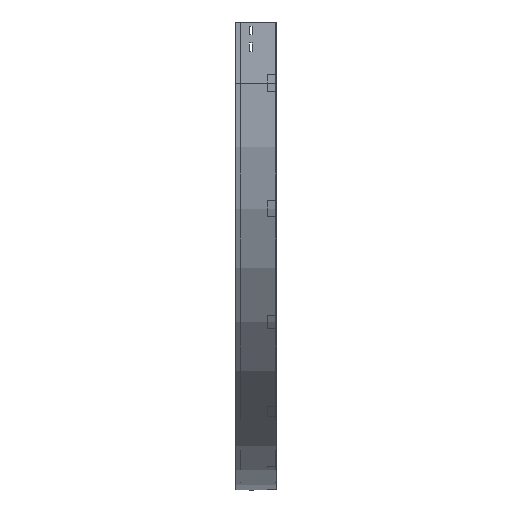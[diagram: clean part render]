
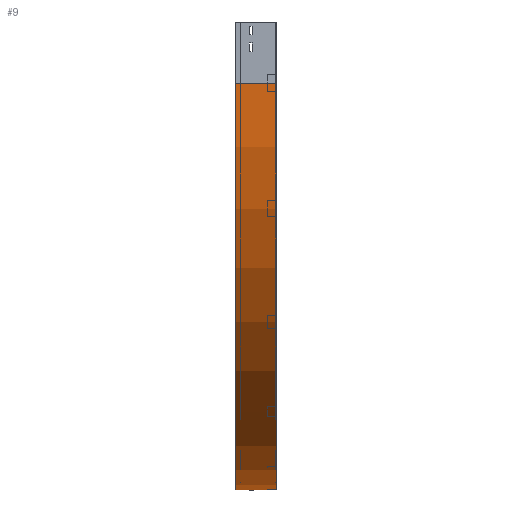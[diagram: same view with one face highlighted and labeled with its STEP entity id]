
A CAD part, left-side view. The second image highlights one B-rep face of the part: STEP entity #9.
In plain terms, the highlighted cylindrical face has radius 1000 mm (diameter 2000 mm), a partial arc.
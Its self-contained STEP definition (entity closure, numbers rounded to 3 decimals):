
#9 = ADVANCED_FACE ( 'NONE', ( #478 ), #78, .T. ) ;
#78 = CYLINDRICAL_SURFACE ( 'NONE', #787, 1000. ) ;
#378 = DIRECTION ( 'NONE',  ( 0., -1., 0. ) ) ;
#388 = CIRCLE ( 'NONE', #2900, 1000. ) ;
#434 = DIRECTION ( 'NONE',  ( 0., -1., 0. ) ) ;
#478 = FACE_OUTER_BOUND ( 'NONE', #1331, .T. ) ;
#546 = CARTESIAN_POINT ( 'NONE',  ( 1000., 0., -1150. ) ) ;
#632 = EDGE_CURVE ( 'NONE', #3809, #2886, #2561, .T. ) ;
#651 = CARTESIAN_POINT ( 'NONE',  ( 0., 0., -150. ) ) ;
#747 = ORIENTED_EDGE ( 'NONE', *, *, #1645, .F. ) ;
#787 = AXIS2_PLACEMENT_3D ( 'NONE', #1269, #434, #999 ) ;
#970 = DIRECTION ( 'NONE',  ( -1., 0., 0. ) ) ;
#999 = DIRECTION ( 'NONE',  ( 0., 0., -1. ) ) ;
#1031 = CARTESIAN_POINT ( 'NONE',  ( 1000., 100., -150. ) ) ;
#1062 = EDGE_CURVE ( 'NONE', #1457, #2886, #1683, .T. ) ;
#1124 = CARTESIAN_POINT ( 'NONE',  ( 0., 0., -150. ) ) ;
#1269 = CARTESIAN_POINT ( 'NONE',  ( 1000., 0., -150. ) ) ;
#1331 = EDGE_LOOP ( 'NONE', ( #3220, #747, #3727, #2652 ) ) ;
#1457 = VERTEX_POINT ( 'NONE', #2968 ) ;
#1529 = DIRECTION ( 'NONE',  ( 0., -1., 0. ) ) ;
#1576 = VERTEX_POINT ( 'NONE', #2504 ) ;
#1645 = EDGE_CURVE ( 'NONE', #1576, #3809, #3021, .T. ) ;
#1683 = LINE ( 'NONE', #2018, #3428 ) ;
#1706 = DIRECTION ( 'NONE',  ( 0., -1., 0. ) ) ;
#1794 = AXIS2_PLACEMENT_3D ( 'NONE', #2046, #1706, #2023 ) ;
#2018 = CARTESIAN_POINT ( 'NONE',  ( 1000., 0., -1150. ) ) ;
#2023 = DIRECTION ( 'NONE',  ( -1., 0., 0. ) ) ;
#2046 = CARTESIAN_POINT ( 'NONE',  ( 1000., 0., -150. ) ) ;
#2159 = VECTOR ( 'NONE', #1529, 1000. ) ;
#2504 = CARTESIAN_POINT ( 'NONE',  ( 0., 100., -150. ) ) ;
#2561 = CIRCLE ( 'NONE', #1794, 1000. ) ;
#2652 = ORIENTED_EDGE ( 'NONE', *, *, #1062, .T. ) ;
#2881 = DIRECTION ( 'NONE',  ( 0., -1., 0. ) ) ;
#2886 = VERTEX_POINT ( 'NONE', #546 ) ;
#2900 = AXIS2_PLACEMENT_3D ( 'NONE', #1031, #378, #970 ) ;
#2968 = CARTESIAN_POINT ( 'NONE',  ( 1000., 100., -1150. ) ) ;
#3021 = LINE ( 'NONE', #651, #2159 ) ;
#3205 = EDGE_CURVE ( 'NONE', #1576, #1457, #388, .T. ) ;
#3220 = ORIENTED_EDGE ( 'NONE', *, *, #632, .F. ) ;
#3428 = VECTOR ( 'NONE', #2881, 1000. ) ;
#3727 = ORIENTED_EDGE ( 'NONE', *, *, #3205, .T. ) ;
#3809 = VERTEX_POINT ( 'NONE', #1124 ) ;
